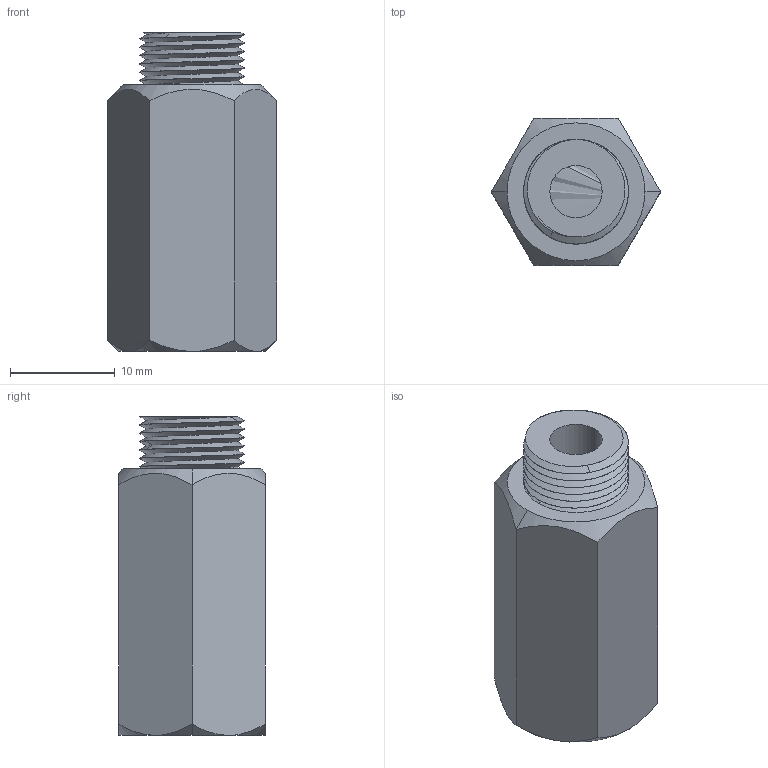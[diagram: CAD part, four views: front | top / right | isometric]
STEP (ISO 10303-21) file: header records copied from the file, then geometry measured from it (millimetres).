
FILE_DESCRIPTION (( 'STEP AP214' ), '1' );
FILE_NAME ('Cylinder_V2.step', '2025-12-23T15:53:12', ( '' ), ( '' ), 'SwSTEP 2.0', 'SolidWorks 2026', '' );
FILE_SCHEMA (( 'AUTOMOTIVE_DESIGN' ));
Length unit declared in the file: inch
Products named in the file (1): Cylinder_V2
Bounding box: 16.18 x 14.01 x 30.47 mm (x, y, z)
Volume: 4068.5 mm3; surface area: 2284.4 mm2
Topology: 1 solids, 1 shells, 41 faces, 100 edges, 62 vertices
Faces by surface type: cylinder 15, plane 10, cone 9, bspline 7
Entity records: 3120 total; most frequent: CARTESIAN_POINT 2263, ORIENTED_EDGE 200, DIRECTION 122, EDGE_CURVE 100, B_SPLINE_CURVE_WITH_KNOTS 63, VERTEX_POINT 62, AXIS2_PLACEMENT_3D 50, EDGE_LOOP 44
